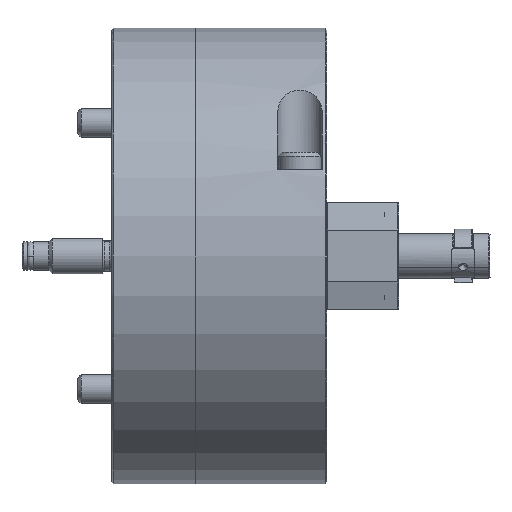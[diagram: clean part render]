
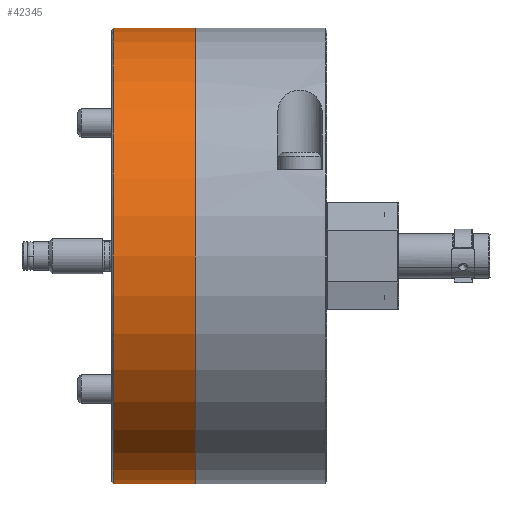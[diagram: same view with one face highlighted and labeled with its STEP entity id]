
A CAD part, front view. The second image highlights one B-rep face of the part: STEP entity #42345.
In plain terms, the highlighted cylindrical face has radius 127 mm (diameter 254 mm), a partial arc.
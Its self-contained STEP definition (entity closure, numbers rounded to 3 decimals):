
#5 = EDGE_CURVE ( 'NONE', #13160, #39458, #10293, .T. ) ;
#999 = DIRECTION ( 'NONE',  ( 0., 0., 1. ) ) ;
#1098 = AXIS2_PLACEMENT_3D ( 'NONE', #26843, #30457, #2363 ) ;
#2363 = DIRECTION ( 'NONE',  ( 0., 0., -1. ) ) ;
#3650 = CARTESIAN_POINT ( 'NONE',  ( -119., 0., 127. ) ) ;
#5238 = VECTOR ( 'NONE', #19596, 1000. ) ;
#8700 = FACE_OUTER_BOUND ( 'NONE', #37976, .T. ) ;
#9413 = DIRECTION ( 'NONE',  ( 1., 0., 0. ) ) ;
#9693 = EDGE_CURVE ( 'NONE', #32112, #13160, #32511, .T. ) ;
#10293 = CIRCLE ( 'NONE', #26052, 127. ) ;
#13160 = VERTEX_POINT ( 'NONE', #43434 ) ;
#13451 = LINE ( 'NONE', #40607, #5238 ) ;
#14086 = DIRECTION ( 'NONE',  ( 1., 0., 0. ) ) ;
#19596 = DIRECTION ( 'NONE',  ( 1., 0., 0. ) ) ;
#20001 = ORIENTED_EDGE ( 'NONE', *, *, #21548, .T. ) ;
#20009 = CARTESIAN_POINT ( 'NONE',  ( -119., 0., 0. ) ) ;
#20750 = CARTESIAN_POINT ( 'NONE',  ( -119., 0., -127. ) ) ;
#20956 = DIRECTION ( 'NONE',  ( 1., 0., 0. ) ) ;
#21548 = EDGE_CURVE ( 'NONE', #32112, #33657, #43423, .T. ) ;
#22002 = VECTOR ( 'NONE', #14086, 1000. ) ;
#26052 = AXIS2_PLACEMENT_3D ( 'NONE', #32761, #20956, #43630 ) ;
#26843 = CARTESIAN_POINT ( 'NONE',  ( 0., 0., 0. ) ) ;
#27417 = AXIS2_PLACEMENT_3D ( 'NONE', #20009, #9413, #999 ) ;
#30457 = DIRECTION ( 'NONE',  ( 1., 0., 0. ) ) ;
#31129 = CARTESIAN_POINT ( 'NONE',  ( -73.4, 0., -127. ) ) ;
#32112 = VERTEX_POINT ( 'NONE', #3650 ) ;
#32511 = LINE ( 'NONE', #43610, #22002 ) ;
#32761 = CARTESIAN_POINT ( 'NONE',  ( -73.4, 0., 0. ) ) ;
#33657 = VERTEX_POINT ( 'NONE', #20750 ) ;
#36692 = CYLINDRICAL_SURFACE ( 'NONE', #1098, 127. ) ;
#37254 = ORIENTED_EDGE ( 'NONE', *, *, #5, .F. ) ;
#37976 = EDGE_LOOP ( 'NONE', ( #41348, #20001, #42081, #37254 ) ) ;
#39458 = VERTEX_POINT ( 'NONE', #31129 ) ;
#40607 = CARTESIAN_POINT ( 'NONE',  ( 0., 0., -127. ) ) ;
#41348 = ORIENTED_EDGE ( 'NONE', *, *, #9693, .F. ) ;
#42081 = ORIENTED_EDGE ( 'NONE', *, *, #44554, .T. ) ;
#42345 = ADVANCED_FACE ( 'NONE', ( #8700 ), #36692, .T. ) ;
#43423 = CIRCLE ( 'NONE', #27417, 127. ) ;
#43434 = CARTESIAN_POINT ( 'NONE',  ( -73.4, 0., 127. ) ) ;
#43610 = CARTESIAN_POINT ( 'NONE',  ( 0., 0., 127. ) ) ;
#43630 = DIRECTION ( 'NONE',  ( 0., 0., -1. ) ) ;
#44554 = EDGE_CURVE ( 'NONE', #33657, #39458, #13451, .T. ) ;
